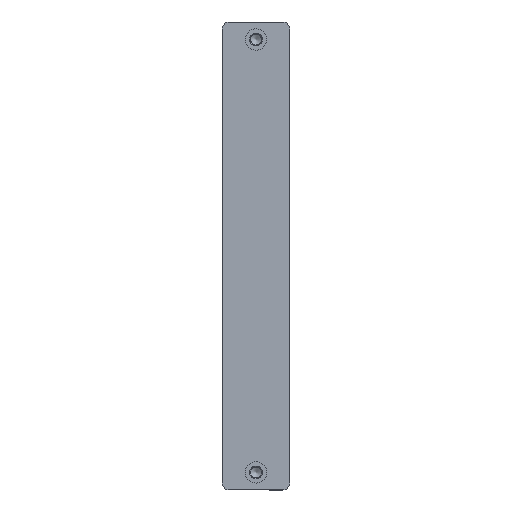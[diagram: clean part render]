
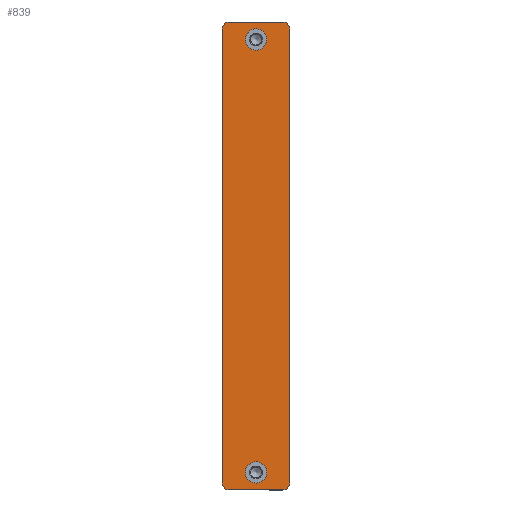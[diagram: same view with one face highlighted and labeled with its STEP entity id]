
A CAD part, top view. The second image highlights one B-rep face of the part: STEP entity #839.
In plain terms, the highlighted planar face has unit normal (0, 0, 1).
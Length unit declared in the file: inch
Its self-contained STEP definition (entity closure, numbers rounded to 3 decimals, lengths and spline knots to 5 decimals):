
#43=FACE_BOUND('',#151,.T.);
#44=FACE_BOUND('',#152,.T.);
#45=FACE_BOUND('',#153,.T.);
#63=PLANE('',#900);
#151=EDGE_LOOP('',(#559));
#152=EDGE_LOOP('',(#560));
#153=EDGE_LOOP('',(#561,#562,#563,#564,#565,#566,#567,#568));
#221=LINE('',#1226,#273);
#224=LINE('',#1236,#276);
#225=LINE('',#1240,#277);
#226=LINE('',#1244,#278);
#273=VECTOR('',#996,0.455);
#276=VECTOR('',#1005,3.88);
#277=VECTOR('',#1008,0.455);
#278=VECTOR('',#1011,3.88);
#324=CIRCLE('',#898,0.06);
#325=CIRCLE('',#901,0.0625);
#326=CIRCLE('',#902,0.0625);
#327=CIRCLE('',#903,0.06);
#328=CIRCLE('',#904,0.06);
#329=CIRCLE('',#905,0.06);
#361=VERTEX_POINT('',#1219);
#362=VERTEX_POINT('',#1221);
#363=VERTEX_POINT('',#1225);
#365=VERTEX_POINT('',#1231);
#366=VERTEX_POINT('',#1233);
#367=VERTEX_POINT('',#1235);
#368=VERTEX_POINT('',#1237);
#369=VERTEX_POINT('',#1239);
#370=VERTEX_POINT('',#1241);
#371=VERTEX_POINT('',#1243);
#441=EDGE_CURVE('',#361,#362,#324,.T.);
#443=EDGE_CURVE('',#363,#362,#221,.T.);
#446=EDGE_CURVE('',#365,#365,#325,.T.);
#447=EDGE_CURVE('',#366,#366,#326,.T.);
#448=EDGE_CURVE('',#361,#367,#224,.T.);
#449=EDGE_CURVE('',#368,#367,#327,.T.);
#450=EDGE_CURVE('',#368,#369,#225,.T.);
#451=EDGE_CURVE('',#370,#369,#328,.T.);
#452=EDGE_CURVE('',#370,#371,#226,.T.);
#453=EDGE_CURVE('',#363,#371,#329,.T.);
#559=ORIENTED_EDGE('',*,*,#446,.T.);
#560=ORIENTED_EDGE('',*,*,#447,.T.);
#561=ORIENTED_EDGE('',*,*,#441,.F.);
#562=ORIENTED_EDGE('',*,*,#448,.T.);
#563=ORIENTED_EDGE('',*,*,#449,.F.);
#564=ORIENTED_EDGE('',*,*,#450,.T.);
#565=ORIENTED_EDGE('',*,*,#451,.F.);
#566=ORIENTED_EDGE('',*,*,#452,.T.);
#567=ORIENTED_EDGE('',*,*,#453,.F.);
#568=ORIENTED_EDGE('',*,*,#443,.T.);
#839=ADVANCED_FACE('',(#43,#44,#45),#63,.T.);
#898=AXIS2_PLACEMENT_3D('',#1222,#991,#992);
#900=AXIS2_PLACEMENT_3D('',#1230,#999,#1000);
#901=AXIS2_PLACEMENT_3D('',#1232,#1001,#1002);
#902=AXIS2_PLACEMENT_3D('',#1234,#1003,#1004);
#903=AXIS2_PLACEMENT_3D('',#1238,#1006,#1007);
#904=AXIS2_PLACEMENT_3D('',#1242,#1009,#1010);
#905=AXIS2_PLACEMENT_3D('',#1245,#1012,#1013);
#991=DIRECTION('center_axis',(0.,0.,-1.));
#992=DIRECTION('ref_axis',(0.707,-0.707,0.));
#996=DIRECTION('',(1.,0.,0.));
#999=DIRECTION('center_axis',(0.,0.,1.));
#1000=DIRECTION('ref_axis',(1.,0.,0.));
#1001=DIRECTION('center_axis',(0.,0.,-1.));
#1002=DIRECTION('ref_axis',(1.,0.,0.));
#1003=DIRECTION('center_axis',(0.,0.,-1.));
#1004=DIRECTION('ref_axis',(1.,0.,0.));
#1005=DIRECTION('',(0.,1.,0.));
#1006=DIRECTION('center_axis',(0.,0.,-1.));
#1007=DIRECTION('ref_axis',(0.707,0.707,0.));
#1008=DIRECTION('',(-1.,0.,0.));
#1009=DIRECTION('center_axis',(0.,0.,-1.));
#1010=DIRECTION('ref_axis',(-0.707,0.707,0.));
#1011=DIRECTION('',(0.,-1.,0.));
#1012=DIRECTION('center_axis',(0.,0.,-1.));
#1013=DIRECTION('ref_axis',(-0.707,-0.707,0.));
#1219=CARTESIAN_POINT('',(0.575,0.06,0.));
#1221=CARTESIAN_POINT('',(0.515,0.,0.));
#1222=CARTESIAN_POINT('Origin',(0.515,0.06,0.));
#1225=CARTESIAN_POINT('',(0.06,0.,0.));
#1226=CARTESIAN_POINT('',(0.,0.,0.));
#1230=CARTESIAN_POINT('Origin',(0.2875,2.,0.));
#1231=CARTESIAN_POINT('',(0.35,3.85,0.));
#1232=CARTESIAN_POINT('Origin',(0.2875,3.85,0.));
#1233=CARTESIAN_POINT('',(0.35,0.15,0.));
#1234=CARTESIAN_POINT('Origin',(0.2875,0.15,0.));
#1235=CARTESIAN_POINT('',(0.575,3.94,0.));
#1236=CARTESIAN_POINT('',(0.575,0.,0.));
#1237=CARTESIAN_POINT('',(0.515,4.,0.));
#1238=CARTESIAN_POINT('Origin',(0.515,3.94,0.));
#1239=CARTESIAN_POINT('',(0.06,4.,0.));
#1240=CARTESIAN_POINT('',(0.575,4.,0.));
#1241=CARTESIAN_POINT('',(0.,3.94,0.));
#1242=CARTESIAN_POINT('Origin',(0.06,3.94,0.));
#1243=CARTESIAN_POINT('',(0.,0.06,0.));
#1244=CARTESIAN_POINT('',(0.,4.,0.));
#1245=CARTESIAN_POINT('Origin',(0.06,0.06,0.));
